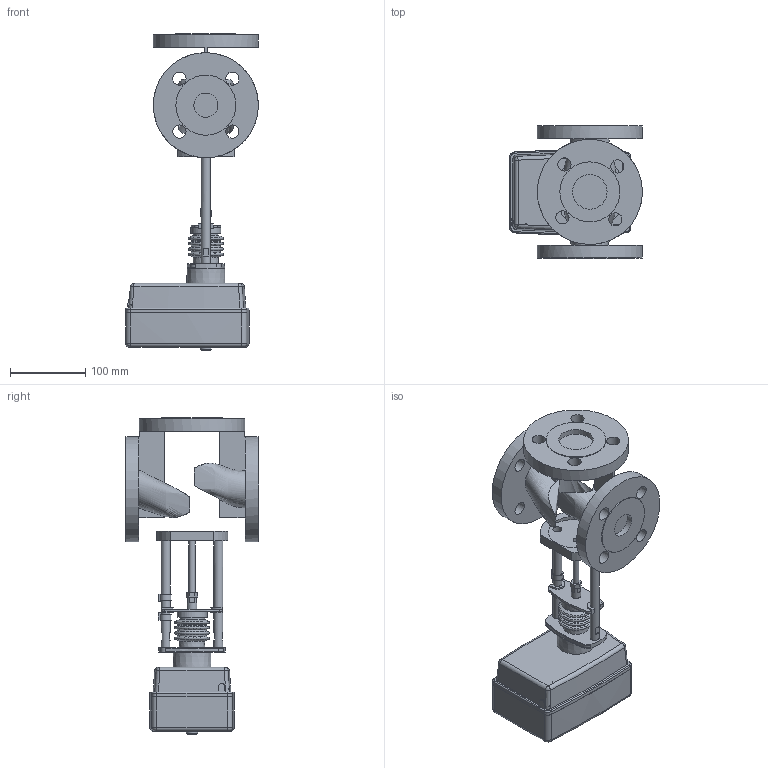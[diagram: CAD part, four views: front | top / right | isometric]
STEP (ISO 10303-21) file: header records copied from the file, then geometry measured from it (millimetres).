
FILE_DESCRIPTION(/* description */ ('Unknown'),/* implementation_level */ '2;1');
FILE_NAME(/* name */ 'TRV-3-32-101(модель)',/* time_stamp */ '2021-11-23T14:18:45+03:00',/* author */ ('Unknown'),/* organization */ ('Unknown'),/* preprocessor_version */ 'ST-DEVELOPER v16.7',/* originating_system */ 'DEX',/* authorisation */ $);
FILE_SCHEMA (('AUTOMOTIVE_DESIGN {1 0 10303 214 3 1 1}'));
Length unit declared in the file: millimetre
Products named in the file (1): TRV-3-32-101(斁麧錪)
Bounding box: 176.96 x 178 x 421.4 mm (x, y, z)
Volume: 1493943 mm3; surface area: 274835.7 mm2
Topology: 1 solids, 2 shells, 336 faces, 877 edges, 563 vertices
Faces by surface type: plane 173, cylinder 91, torus 36, cone 22, bspline 10, sphere 4
Full cylindrical faces by diameter (mm): 8 x1, 12.002 x4, 13 x1, 15 x1, 17.7 x12, 32 x2, 33.4 x1, 33.972 x1, 40 x1, 46 x1, 73.178 x1, 80 x3, 140 x3
Entity records: 13617 total; most frequent: CARTESIAN_POINT 3354, DIRECTION 1697, ORIENTED_EDGE 1536, EDGE_CURVE 768, AXIS2_PLACEMENT_3D 658, VERTEX_POINT 515, EDGE_LOOP 447, FACE_BOUND 447
